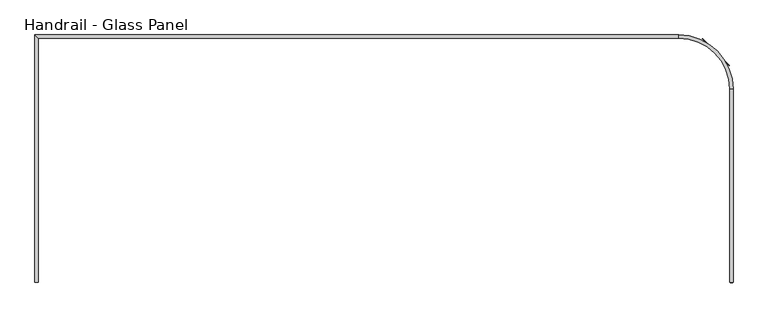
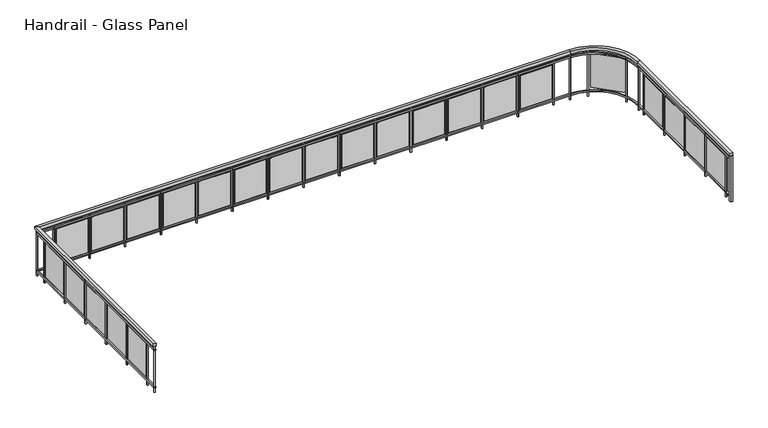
"""IFC4 building model written with IfcOpenShell, lengths in millimetres: railing geometry, Handrail - Glass Panel."""

from ifc_helpers import new_model, si_unit, point, frame, frame_2d, origin, place, context, project, spatial, polyline, circle_curve, trimmed, segment, composite_curve, outline, extrude, source, transform, mapped, element, save
from ifc_brep_helpers import plane_surface, cylinder_surface, revolved_surface, advanced_brep


def handrail_glass_panel_a0be857a(model_context):
    return source(origin(), model_context, "Body", "SolidModel", [
        advanced_brep(
        [(30113.2134101, 6897.3851347, 9014.4), (30062.4134101, 6897.3851347, 9014.4), (30062.4134101, 6897.3851347, 8963.6), (30113.2134101, 6897.3851347, 8963.6), (30113.2134101, 9747.3851347, 9014.4), (30062.4134101, 9747.3851347, 9014.4), (30062.4134101, 9747.3851347, 8963.6), (30113.2134101, 9747.3851347, 8963.6), (29312.4134101, 10497.3851347, 9014.4), (29312.4134101, 10548.1851347, 9014.4), (29312.4134101, 10497.3851347, 8963.6), (29312.4134101, 10548.1851347, 8963.6), (19806.6134101, 10548.1851347, 9014.4), (19857.4134101, 10497.3851347, 9014.4), (19857.4134101, 10497.3851347, 8963.6), (19806.6134101, 10548.1851347, 8963.6), (19806.6134101, 6897.3851347, 9014.4), (19806.6134101, 6897.3851347, 8963.6), (19857.4134101, 6897.3851347, 8963.6), (19857.4134101, 6897.3851347, 9014.4)],
        [
            (0, 1),
            (1, 2),
            (2, 3),
            (3, 0),
            (0, 4),
            (4, 5),
            (5, 1),
            (5, 6),
            (6, 2),
            (6, 7),
            (7, 3),
            (7, 4),
            (8, 5, circle_curve(frame((29312.4134101, 9747.3851347, 9014.4), z_axis=(0.0, 0.0, -1.0), x_axis=(1.0, 0.0, 0.0)), 750.0)),
            (4, 9, circle_curve(frame((29312.4134101, 9747.3851347, 9014.4), z_axis=(0.0, 0.0, 1.0), x_axis=(1.0, 0.0, 0.0)), 800.8)),
            (9, 8),
            (10, 6, circle_curve(frame((29312.4134101, 9747.3851347, 8963.6), z_axis=(0.0, 0.0, -1.0), x_axis=(1.0, 0.0, 0.0)), 750.0)),
            (8, 10),
            (11, 7, circle_curve(frame((29312.4134101, 9747.3851347, 8963.6), z_axis=(0.0, 0.0, -1.0), x_axis=(1.0, 0.0, 0.0)), 800.8)),
            (10, 11),
            (11, 9),
            (9, 12),
            (12, 13),
            (13, 8),
            (13, 14),
            (14, 10),
            (14, 15),
            (15, 11),
            (15, 12),
            (16, 17),
            (17, 18),
            (18, 19),
            (19, 16),
            (12, 16),
            (19, 13),
            (18, 14),
            (17, 15),
        ],
        [
            plane_surface(frame((30087.8134101, 6897.3851347, 9014.4), z_axis=(0.0, -1.0, 0.0), x_axis=(0.0, 0.0, 1.0))),
            plane_surface(frame((30113.2134101, 6897.3851347, 9014.4), z_axis=(0.0, 0.0, 1.0), x_axis=(0.0, 1.0, 0.0))),
            plane_surface(frame((30062.4134101, 6897.3851347, 9014.4), z_axis=(-1.0, 0.0, 0.0), x_axis=(0.0, 1.0, 0.0))),
            plane_surface(frame((30062.4134101, 6897.3851347, 8963.6), z_axis=(0.0, 0.0, -1.0), x_axis=(0.0, 1.0, 0.0))),
            plane_surface(frame((30113.2134101, 6897.3851347, 8963.6), z_axis=(1.0, 0.0, 0.0), x_axis=(0.0, 1.0, 0.0))),
            plane_surface(frame((29312.4134101, 9747.3851347, 9014.4), z_axis=(0.0, 0.0, 1.0), x_axis=(1.0, 0.0, 0.0))),
            revolved_surface(polyline([(30062.4134101, 9747.3851347, 9014.4), (30062.4134101, 9747.3851347, 8963.6)]), (29312.4134101, 9747.3851347, 9014.4), (0.0, 0.0, 1.0)),
            plane_surface(frame((29312.4134101, 9747.3851347, 8963.6), z_axis=(0.0, 0.0, -1.0), x_axis=(1.0, 0.0, 0.0))),
            cylinder_surface(frame((29312.4134101, 9747.3851347, 9014.4), z_axis=(0.0, 0.0, 1.0), x_axis=(1.0, 0.0, 0.0)), 800.8),
            plane_surface(frame((29312.4134101, 10548.1851347, 9014.4), z_axis=(0.0, 0.0, 1.0), x_axis=(-1.0, 0.0, 0.0))),
            plane_surface(frame((29312.4134101, 10497.3851347, 9014.4), z_axis=(0.0, -1.0, 0.0), x_axis=(-1.0, 0.0, 0.0))),
            plane_surface(frame((29312.4134101, 10497.3851347, 8963.6), z_axis=(0.0, 0.0, -1.0), x_axis=(-1.0, 0.0, 0.0))),
            plane_surface(frame((29312.4134101, 10548.1851347, 8963.6), z_axis=(0.0, 1.0, 0.0), x_axis=(-1.0, 0.0, 0.0))),
            plane_surface(frame((19832.0134101, 6897.3851347, 9014.4), z_axis=(0.0, -1.0, 0.0), x_axis=(0.0, 0.0, -1.0))),
            plane_surface(frame((19806.6134101, 10548.1851347, 9014.4), z_axis=(0.0, 0.0, 1.0), x_axis=(0.0, -1.0, 0.0))),
            plane_surface(frame((19857.4134101, 10497.3851347, 9014.4), z_axis=(1.0, 0.0, 0.0), x_axis=(0.0, -1.0, 0.0))),
            plane_surface(frame((19857.4134101, 10497.3851347, 8963.6), z_axis=(0.0, 0.0, -1.0), x_axis=(0.0, -1.0, 0.0))),
            plane_surface(frame((19806.6134101, 10548.1851347, 8963.6), z_axis=(-1.0, 0.0, 0.0), x_axis=(0.0, -1.0, 0.0))),
        ],
        [
            (0, [[1, 2, 3, 4]]),
            (1, [[-1, 5, 6, 7]]),
            (2, [[-2, -7, 8, 9]]),
            (3, [[-3, -9, 10, 11]]),
            (4, [[-4, -11, 12, -5]]),
            (5, [[13, -6, 14, 15]]),
            (6, [[16, -8, -13, 17]]),
            (7, [[18, -10, -16, 19]]),
            (8, [[-14, -12, -18, 20]]),
            (9, [[-15, 21, 22, 23]]),
            (10, [[-17, -23, 24, 25]]),
            (11, [[-19, -25, 26, 27]]),
            (12, [[-20, -27, 28, -21]]),
            (13, [[29, 30, 31, 32]]),
            (14, [[-22, 33, -32, 34]]),
            (15, [[-24, -34, -31, 35]]),
            (16, [[-26, -35, -30, 36]]),
            (17, [[-28, -36, -29, -33]]),
        ],
    ),
        advanced_brep(
        [(30100.5134101, 6897.3851347, 8912.8), (30075.1134101, 6897.3851347, 8912.8), (30075.1134101, 6897.3851347, 8887.4), (30100.5134101, 6897.3851347, 8887.4), (30100.5134101, 9747.3851347, 8912.8), (30075.1134101, 9747.3851347, 8912.8), (30075.1134101, 9747.3851347, 8887.4), (30100.5134101, 9747.3851347, 8887.4), (29312.4134101, 10510.0851347, 8912.8), (29312.4134101, 10535.4851347, 8912.8), (29312.4134101, 10510.0851347, 8887.4), (29312.4134101, 10535.4851347, 8887.4), (19819.3134101, 10535.4851347, 8912.8), (19844.7134101, 10510.0851347, 8912.8), (19844.7134101, 10510.0851347, 8887.4), (19819.3134101, 10535.4851347, 8887.4), (19819.3134101, 6897.3851347, 8912.8), (19819.3134101, 6897.3851347, 8887.4), (19844.7134101, 6897.3851347, 8887.4), (19844.7134101, 6897.3851347, 8912.8)],
        [
            (0, 1),
            (1, 2),
            (2, 3),
            (3, 0),
            (0, 4),
            (4, 5),
            (5, 1),
            (5, 6),
            (6, 2),
            (6, 7),
            (7, 3),
            (7, 4),
            (8, 5, circle_curve(frame((29312.4134101, 9747.3851347, 8912.8), z_axis=(0.0, 0.0, -1.0), x_axis=(1.0, 0.0, 0.0)), 762.7)),
            (4, 9, circle_curve(frame((29312.4134101, 9747.3851347, 8912.8), z_axis=(0.0, 0.0, 1.0), x_axis=(1.0, 0.0, 0.0)), 788.1)),
            (9, 8),
            (10, 6, circle_curve(frame((29312.4134101, 9747.3851347, 8887.4), z_axis=(0.0, 0.0, -1.0), x_axis=(1.0, 0.0, 0.0)), 762.7)),
            (8, 10),
            (11, 7, circle_curve(frame((29312.4134101, 9747.3851347, 8887.4), z_axis=(0.0, 0.0, -1.0), x_axis=(1.0, 0.0, 0.0)), 788.1)),
            (10, 11),
            (11, 9),
            (9, 12),
            (12, 13),
            (13, 8),
            (13, 14),
            (14, 10),
            (14, 15),
            (15, 11),
            (15, 12),
            (16, 17),
            (17, 18),
            (18, 19),
            (19, 16),
            (12, 16),
            (19, 13),
            (18, 14),
            (17, 15),
        ],
        [
            plane_surface(frame((30087.8134101, 6897.3851347, 8912.8), z_axis=(0.0, -1.0, 0.0), x_axis=(0.0, 0.0, 1.0))),
            plane_surface(frame((30100.5134101, 6897.3851347, 8912.8), z_axis=(0.0, 0.0, 1.0), x_axis=(0.0, 1.0, 0.0))),
            plane_surface(frame((30075.1134101, 6897.3851347, 8912.8), z_axis=(-1.0, 0.0, 0.0), x_axis=(0.0, 1.0, 0.0))),
            plane_surface(frame((30075.1134101, 6897.3851347, 8887.4), z_axis=(0.0, 0.0, -1.0), x_axis=(0.0, 1.0, 0.0))),
            plane_surface(frame((30100.5134101, 6897.3851347, 8887.4), z_axis=(1.0, 0.0, 0.0), x_axis=(0.0, 1.0, 0.0))),
            plane_surface(frame((29312.4134101, 9747.3851347, 8912.8), z_axis=(0.0, 0.0, 1.0), x_axis=(1.0, 0.0, 0.0))),
            revolved_surface(polyline([(30075.113410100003, 9747.3851347, 8912.8), (30075.113410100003, 9747.3851347, 8887.4)]), (29312.4134101, 9747.3851347, 8912.8), (0.0, 0.0, 1.0)),
            plane_surface(frame((29312.4134101, 9747.3851347, 8887.4), z_axis=(0.0, 0.0, -1.0), x_axis=(1.0, 0.0, 0.0))),
            cylinder_surface(frame((29312.4134101, 9747.3851347, 8912.8), z_axis=(0.0, 0.0, 1.0), x_axis=(1.0, 0.0, 0.0)), 788.1),
            plane_surface(frame((29312.4134101, 10535.4851347, 8912.8), z_axis=(0.0, 0.0, 1.0), x_axis=(-1.0, 0.0, 0.0))),
            plane_surface(frame((29312.4134101, 10510.0851347, 8912.8), z_axis=(0.0, -1.0, 0.0), x_axis=(-1.0, 0.0, 0.0))),
            plane_surface(frame((29312.4134101, 10510.0851347, 8887.4), z_axis=(0.0, 0.0, -1.0), x_axis=(-1.0, 0.0, 0.0))),
            plane_surface(frame((29312.4134101, 10535.4851347, 8887.4), z_axis=(0.0, 1.0, 0.0), x_axis=(-1.0, 0.0, 0.0))),
            plane_surface(frame((19832.0134101, 6897.3851347, 8912.8), z_axis=(0.0, -1.0, 0.0), x_axis=(0.0, 0.0, -1.0))),
            plane_surface(frame((19819.3134101, 10535.4851347, 8912.8), z_axis=(0.0, 0.0, 1.0), x_axis=(0.0, -1.0, 0.0))),
            plane_surface(frame((19844.7134101, 10510.0851347, 8912.8), z_axis=(1.0, 0.0, 0.0), x_axis=(0.0, -1.0, 0.0))),
            plane_surface(frame((19844.7134101, 10510.0851347, 8887.4), z_axis=(0.0, 0.0, -1.0), x_axis=(0.0, -1.0, 0.0))),
            plane_surface(frame((19819.3134101, 10535.4851347, 8887.4), z_axis=(-1.0, 0.0, 0.0), x_axis=(0.0, -1.0, 0.0))),
        ],
        [
            (0, [[1, 2, 3, 4]]),
            (1, [[-1, 5, 6, 7]]),
            (2, [[-2, -7, 8, 9]]),
            (3, [[-3, -9, 10, 11]]),
            (4, [[-4, -11, 12, -5]]),
            (5, [[13, -6, 14, 15]]),
            (6, [[16, -8, -13, 17]]),
            (7, [[18, -10, -16, 19]]),
            (8, [[-14, -12, -18, 20]]),
            (9, [[-15, 21, 22, 23]]),
            (10, [[-17, -23, 24, 25]]),
            (11, [[-19, -25, 26, 27]]),
            (12, [[-20, -27, 28, -21]]),
            (13, [[29, 30, 31, 32]]),
            (14, [[-22, 33, -32, 34]]),
            (15, [[-24, -34, -31, 35]]),
            (16, [[-26, -35, -30, 36]]),
            (17, [[-28, -36, -29, -33]]),
        ],
    ),
        advanced_brep(
        [(30100.5134101, 6897.3851347, 8201.6), (30075.1134101, 6897.3851347, 8201.6), (30075.1134101, 6897.3851347, 8176.2), (30100.5134101, 6897.3851347, 8176.2), (30100.5134101, 9747.3851347, 8201.6), (30075.1134101, 9747.3851347, 8201.6), (30075.1134101, 9747.3851347, 8176.2), (30100.5134101, 9747.3851347, 8176.2), (29312.4134101, 10510.0851347, 8201.6), (29312.4134101, 10535.4851347, 8201.6), (29312.4134101, 10510.0851347, 8176.2), (29312.4134101, 10535.4851347, 8176.2), (19819.3134101, 10535.4851347, 8201.6), (19844.7134101, 10510.0851347, 8201.6), (19844.7134101, 10510.0851347, 8176.2), (19819.3134101, 10535.4851347, 8176.2), (19819.3134101, 6897.3851347, 8201.6), (19819.3134101, 6897.3851347, 8176.2), (19844.7134101, 6897.3851347, 8176.2), (19844.7134101, 6897.3851347, 8201.6)],
        [
            (0, 1),
            (1, 2),
            (2, 3),
            (3, 0),
            (0, 4),
            (4, 5),
            (5, 1),
            (5, 6),
            (6, 2),
            (6, 7),
            (7, 3),
            (7, 4),
            (8, 5, circle_curve(frame((29312.4134101, 9747.3851347, 8201.6), z_axis=(0.0, 0.0, -1.0), x_axis=(1.0, 0.0, 0.0)), 762.7)),
            (4, 9, circle_curve(frame((29312.4134101, 9747.3851347, 8201.6), z_axis=(0.0, 0.0, 1.0), x_axis=(1.0, 0.0, 0.0)), 788.1)),
            (9, 8),
            (10, 6, circle_curve(frame((29312.4134101, 9747.3851347, 8176.2), z_axis=(0.0, 0.0, -1.0), x_axis=(1.0, 0.0, 0.0)), 762.7)),
            (8, 10),
            (11, 7, circle_curve(frame((29312.4134101, 9747.3851347, 8176.2), z_axis=(0.0, 0.0, -1.0), x_axis=(1.0, 0.0, 0.0)), 788.1)),
            (10, 11),
            (11, 9),
            (9, 12),
            (12, 13),
            (13, 8),
            (13, 14),
            (14, 10),
            (14, 15),
            (15, 11),
            (15, 12),
            (16, 17),
            (17, 18),
            (18, 19),
            (19, 16),
            (12, 16),
            (19, 13),
            (18, 14),
            (17, 15),
        ],
        [
            plane_surface(frame((30087.8134101, 6897.3851347, 8201.6), z_axis=(0.0, -1.0, 0.0), x_axis=(0.0, 0.0, 1.0))),
            plane_surface(frame((30100.5134101, 6897.3851347, 8201.6), z_axis=(0.0, 0.0, 1.0), x_axis=(0.0, 1.0, 0.0))),
            plane_surface(frame((30075.1134101, 6897.3851347, 8201.6), z_axis=(-1.0, 0.0, 0.0), x_axis=(0.0, 1.0, 0.0))),
            plane_surface(frame((30075.1134101, 6897.3851347, 8176.2), z_axis=(0.0, 0.0, -1.0), x_axis=(0.0, 1.0, 0.0))),
            plane_surface(frame((30100.5134101, 6897.3851347, 8176.2), z_axis=(1.0, 0.0, 0.0), x_axis=(0.0, 1.0, 0.0))),
            plane_surface(frame((29312.4134101, 9747.3851347, 8201.6), z_axis=(0.0, 0.0, 1.0), x_axis=(1.0, 0.0, 0.0))),
            revolved_surface(polyline([(30075.113410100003, 9747.3851347, 8201.6), (30075.113410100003, 9747.3851347, 8176.2)]), (29312.4134101, 9747.3851347, 8201.6), (0.0, 0.0, 1.0)),
            plane_surface(frame((29312.4134101, 9747.3851347, 8176.2), z_axis=(0.0, 0.0, -1.0), x_axis=(1.0, 0.0, 0.0))),
            cylinder_surface(frame((29312.4134101, 9747.3851347, 8201.6), z_axis=(0.0, 0.0, 1.0), x_axis=(1.0, 0.0, 0.0)), 788.1),
            plane_surface(frame((29312.4134101, 10535.4851347, 8201.6), z_axis=(0.0, 0.0, 1.0), x_axis=(-1.0, 0.0, 0.0))),
            plane_surface(frame((29312.4134101, 10510.0851347, 8201.6), z_axis=(0.0, -1.0, 0.0), x_axis=(-1.0, 0.0, 0.0))),
            plane_surface(frame((29312.4134101, 10510.0851347, 8176.2), z_axis=(0.0, 0.0, -1.0), x_axis=(-1.0, 0.0, 0.0))),
            plane_surface(frame((29312.4134101, 10535.4851347, 8176.2), z_axis=(0.0, 1.0, 0.0), x_axis=(-1.0, 0.0, 0.0))),
            plane_surface(frame((19832.0134101, 6897.3851347, 8201.6), z_axis=(0.0, -1.0, 0.0), x_axis=(0.0, 0.0, -1.0))),
            plane_surface(frame((19819.3134101, 10535.4851347, 8201.6), z_axis=(0.0, 0.0, 1.0), x_axis=(0.0, -1.0, 0.0))),
            plane_surface(frame((19844.7134101, 10510.0851347, 8201.6), z_axis=(1.0, 0.0, 0.0), x_axis=(0.0, -1.0, 0.0))),
            plane_surface(frame((19844.7134101, 10510.0851347, 8176.2), z_axis=(0.0, 0.0, -1.0), x_axis=(0.0, -1.0, 0.0))),
            plane_surface(frame((19819.3134101, 10535.4851347, 8176.2), z_axis=(-1.0, 0.0, 0.0), x_axis=(0.0, -1.0, 0.0))),
        ],
        [
            (0, [[1, 2, 3, 4]]),
            (1, [[-1, 5, 6, 7]]),
            (2, [[-2, -7, 8, 9]]),
            (3, [[-3, -9, 10, 11]]),
            (4, [[-4, -11, 12, -5]]),
            (5, [[13, -6, 14, 15]]),
            (6, [[16, -8, -13, 17]]),
            (7, [[18, -10, -16, 19]]),
            (8, [[-14, -12, -18, 20]]),
            (9, [[-15, 21, 22, 23]]),
            (10, [[-17, -23, 24, 25]]),
            (11, [[-19, -25, 26, 27]]),
            (12, [[-20, -27, 28, -21]]),
            (13, [[29, 30, 31, 32]]),
            (14, [[-22, 33, -32, 34]]),
            (15, [[-24, -34, -31, 35]]),
            (16, [[-26, -35, -30, 36]]),
            (17, [[-28, -36, -29, -33]]),
        ],
    ),
        extrude(outline(polyline([(19822.4884101, 7132.1101347), (19841.5384101, 7132.1101347), (19841.5384101, 7113.0601347), (19822.4884101, 7113.0601347), (19822.4884101, 7132.1101347)])), frame((0.0, 0.0, 8100.0), z_axis=(0.0, 0.0, 1.0), x_axis=(1.0, 0.0, 0.0)), (0.0, 0.0, 1.0), 863.6),
        extrude(outline(polyline([(19838.3634101, 7719.4851347), (19838.3634101, 7160.6851347), (19832.0134101, 7160.6851347), (19832.0134101, 7719.4851347), (19838.3634101, 7719.4851347)])), frame((0.0, 0.0, 8227.0), z_axis=(0.0, 0.0, 1.0), x_axis=(1.0, 0.0, 0.0)), (0.0, 0.0, 1.0), 635.0),
        extrude(outline(polyline([(19822.4884101, 7767.1101347), (19841.5384101, 7767.1101347), (19841.5384101, 7748.0601347), (19822.4884101, 7748.0601347), (19822.4884101, 7767.1101347)])), frame((0.0, 0.0, 8100.0), z_axis=(0.0, 0.0, 1.0), x_axis=(1.0, 0.0, 0.0)), (0.0, 0.0, 1.0), 863.6),
        extrude(outline(polyline([(19838.3634101, 8354.4851347), (19838.3634101, 7795.6851347), (19832.0134101, 7795.6851347), (19832.0134101, 8354.4851347), (19838.3634101, 8354.4851347)])), frame((0.0, 0.0, 8227.0), z_axis=(0.0, 0.0, 1.0), x_axis=(1.0, 0.0, 0.0)), (0.0, 0.0, 1.0), 635.0),
        extrude(outline(polyline([(19822.4884101, 8402.1101347), (19841.5384101, 8402.1101347), (19841.5384101, 8383.0601347), (19822.4884101, 8383.0601347), (19822.4884101, 8402.1101347)])), frame((0.0, 0.0, 8100.0), z_axis=(0.0, 0.0, 1.0), x_axis=(1.0, 0.0, 0.0)), (0.0, 0.0, 1.0), 863.6),
        extrude(outline(polyline([(19838.3634101, 8989.4851347), (19838.3634101, 8430.6851347), (19832.0134101, 8430.6851347), (19832.0134101, 8989.4851347), (19838.3634101, 8989.4851347)])), frame((0.0, 0.0, 8227.0), z_axis=(0.0, 0.0, 1.0), x_axis=(1.0, 0.0, 0.0)), (0.0, 0.0, 1.0), 635.0),
        extrude(outline(polyline([(19822.4884101, 9037.1101347), (19841.5384101, 9037.1101347), (19841.5384101, 9018.0601347), (19822.4884101, 9018.0601347), (19822.4884101, 9037.1101347)])), frame((0.0, 0.0, 8100.0), z_axis=(0.0, 0.0, 1.0), x_axis=(1.0, 0.0, 0.0)), (0.0, 0.0, 1.0), 863.6),
        extrude(outline(polyline([(19838.3634101, 9624.4851347), (19838.3634101, 9065.6851347), (19832.0134101, 9065.6851347), (19832.0134101, 9624.4851347), (19838.3634101, 9624.4851347)])), frame((0.0, 0.0, 8227.0), z_axis=(0.0, 0.0, 1.0), x_axis=(1.0, 0.0, 0.0)), (0.0, 0.0, 1.0), 635.0),
        extrude(outline(polyline([(19822.4884101, 9672.1101347), (19841.5384101, 9672.1101347), (19841.5384101, 9653.0601347), (19822.4884101, 9653.0601347), (19822.4884101, 9672.1101347)])), frame((0.0, 0.0, 8100.0), z_axis=(0.0, 0.0, 1.0), x_axis=(1.0, 0.0, 0.0)), (0.0, 0.0, 1.0), 863.6),
        extrude(outline(polyline([(19838.3634101, 10259.4851347), (19838.3634101, 9700.6851347), (19832.0134101, 9700.6851347), (19832.0134101, 10259.4851347), (19838.3634101, 10259.4851347)])), frame((0.0, 0.0, 8227.0), z_axis=(0.0, 0.0, 1.0), x_axis=(1.0, 0.0, 0.0)), (0.0, 0.0, 1.0), 635.0),
        extrude(outline(polyline([(19822.4884101, 10307.1101347), (19841.5384101, 10307.1101347), (19841.5384101, 10288.0601347), (19822.4884101, 10288.0601347), (19822.4884101, 10307.1101347)])), frame((0.0, 0.0, 8100.0), z_axis=(0.0, 0.0, 1.0), x_axis=(1.0, 0.0, 0.0)), (0.0, 0.0, 1.0), 863.6),
        extrude(outline(polyline([(20136.7384101, 10532.3101347), (20136.7384101, 10513.2601347), (20117.6884101, 10513.2601347), (20117.6884101, 10532.3101347), (20136.7384101, 10532.3101347)])), frame((0.0, 0.0, 8100.0), z_axis=(0.0, 0.0, 1.0), x_axis=(1.0, 0.0, 0.0)), (0.0, 0.0, 1.0), 863.6),
        extrude(outline(polyline([(20724.1134101, 10516.4351347), (20165.3134101, 10516.4351347), (20165.3134101, 10522.7851347), (20724.1134101, 10522.7851347), (20724.1134101, 10516.4351347)])), frame((0.0, 0.0, 8227.0), z_axis=(0.0, 0.0, 1.0), x_axis=(1.0, 0.0, 0.0)), (0.0, 0.0, 1.0), 635.0),
        extrude(outline(polyline([(20771.7384101, 10532.3101347), (20771.7384101, 10513.2601347), (20752.6884101, 10513.2601347), (20752.6884101, 10532.3101347), (20771.7384101, 10532.3101347)])), frame((0.0, 0.0, 8100.0), z_axis=(0.0, 0.0, 1.0), x_axis=(1.0, 0.0, 0.0)), (0.0, 0.0, 1.0), 863.6),
        extrude(outline(polyline([(21359.1134101, 10516.4351347), (20800.3134101, 10516.4351347), (20800.3134101, 10522.7851347), (21359.1134101, 10522.7851347), (21359.1134101, 10516.4351347)])), frame((0.0, 0.0, 8227.0), z_axis=(0.0, 0.0, 1.0), x_axis=(1.0, 0.0, 0.0)), (0.0, 0.0, 1.0), 635.0),
        extrude(outline(polyline([(21406.7384101, 10532.3101347), (21406.7384101, 10513.2601347), (21387.6884101, 10513.2601347), (21387.6884101, 10532.3101347), (21406.7384101, 10532.3101347)])), frame((0.0, 0.0, 8100.0), z_axis=(0.0, 0.0, 1.0), x_axis=(1.0, 0.0, 0.0)), (0.0, 0.0, 1.0), 863.6),
        extrude(outline(polyline([(21994.1134101, 10516.4351347), (21435.3134101, 10516.4351347), (21435.3134101, 10522.7851347), (21994.1134101, 10522.7851347), (21994.1134101, 10516.4351347)])), frame((0.0, 0.0, 8227.0), z_axis=(0.0, 0.0, 1.0), x_axis=(1.0, 0.0, 0.0)), (0.0, 0.0, 1.0), 635.0),
        extrude(outline(polyline([(22041.7384101, 10532.3101347), (22041.7384101, 10513.2601347), (22022.6884101, 10513.2601347), (22022.6884101, 10532.3101347), (22041.7384101, 10532.3101347)])), frame((0.0, 0.0, 8100.0), z_axis=(0.0, 0.0, 1.0), x_axis=(1.0, 0.0, 0.0)), (0.0, 0.0, 1.0), 863.6),
        extrude(outline(polyline([(22629.1134101, 10516.4351347), (22070.3134101, 10516.4351347), (22070.3134101, 10522.7851347), (22629.1134101, 10522.7851347), (22629.1134101, 10516.4351347)])), frame((0.0, 0.0, 8227.0), z_axis=(0.0, 0.0, 1.0), x_axis=(1.0, 0.0, 0.0)), (0.0, 0.0, 1.0), 635.0),
        extrude(outline(polyline([(22676.7384101, 10532.3101347), (22676.7384101, 10513.2601347), (22657.6884101, 10513.2601347), (22657.6884101, 10532.3101347), (22676.7384101, 10532.3101347)])), frame((0.0, 0.0, 8100.0), z_axis=(0.0, 0.0, 1.0), x_axis=(1.0, 0.0, 0.0)), (0.0, 0.0, 1.0), 863.6),
        extrude(outline(polyline([(23264.1134101, 10516.4351347), (22705.3134101, 10516.4351347), (22705.3134101, 10522.7851347), (23264.1134101, 10522.7851347), (23264.1134101, 10516.4351347)])), frame((0.0, 0.0, 8227.0), z_axis=(0.0, 0.0, 1.0), x_axis=(1.0, 0.0, 0.0)), (0.0, 0.0, 1.0), 635.0),
        extrude(outline(polyline([(23311.7384101, 10532.3101347), (23311.7384101, 10513.2601347), (23292.6884101, 10513.2601347), (23292.6884101, 10532.3101347), (23311.7384101, 10532.3101347)])), frame((0.0, 0.0, 8100.0), z_axis=(0.0, 0.0, 1.0), x_axis=(1.0, 0.0, 0.0)), (0.0, 0.0, 1.0), 863.6),
        extrude(outline(polyline([(23899.1134101, 10516.4351347), (23340.3134101, 10516.4351347), (23340.3134101, 10522.7851347), (23899.1134101, 10522.7851347), (23899.1134101, 10516.4351347)])), frame((0.0, 0.0, 8227.0), z_axis=(0.0, 0.0, 1.0), x_axis=(1.0, 0.0, 0.0)), (0.0, 0.0, 1.0), 635.0),
        extrude(outline(polyline([(23946.7384101, 10532.3101347), (23946.7384101, 10513.2601347), (23927.6884101, 10513.2601347), (23927.6884101, 10532.3101347), (23946.7384101, 10532.3101347)])), frame((0.0, 0.0, 8100.0), z_axis=(0.0, 0.0, 1.0), x_axis=(1.0, 0.0, 0.0)), (0.0, 0.0, 1.0), 863.6),
        extrude(outline(polyline([(24534.1134101, 10516.4351347), (23975.3134101, 10516.4351347), (23975.3134101, 10522.7851347), (24534.1134101, 10522.7851347), (24534.1134101, 10516.4351347)])), frame((0.0, 0.0, 8227.0), z_axis=(0.0, 0.0, 1.0), x_axis=(1.0, 0.0, 0.0)), (0.0, 0.0, 1.0), 635.0),
        extrude(outline(polyline([(24581.7384101, 10532.3101347), (24581.7384101, 10513.2601347), (24562.6884101, 10513.2601347), (24562.6884101, 10532.3101347), (24581.7384101, 10532.3101347)])), frame((0.0, 0.0, 8100.0), z_axis=(0.0, 0.0, 1.0), x_axis=(1.0, 0.0, 0.0)), (0.0, 0.0, 1.0), 863.6),
        extrude(outline(polyline([(25169.1134101, 10516.4351347), (24610.3134101, 10516.4351347), (24610.3134101, 10522.7851347), (25169.1134101, 10522.7851347), (25169.1134101, 10516.4351347)])), frame((0.0, 0.0, 8227.0), z_axis=(0.0, 0.0, 1.0), x_axis=(1.0, 0.0, 0.0)), (0.0, 0.0, 1.0), 635.0),
        extrude(outline(polyline([(25216.7384101, 10532.3101347), (25216.7384101, 10513.2601347), (25197.6884101, 10513.2601347), (25197.6884101, 10532.3101347), (25216.7384101, 10532.3101347)])), frame((0.0, 0.0, 8100.0), z_axis=(0.0, 0.0, 1.0), x_axis=(1.0, 0.0, 0.0)), (0.0, 0.0, 1.0), 863.6),
        extrude(outline(polyline([(25804.1134101, 10516.4351347), (25245.3134101, 10516.4351347), (25245.3134101, 10522.7851347), (25804.1134101, 10522.7851347), (25804.1134101, 10516.4351347)])), frame((0.0, 0.0, 8227.0), z_axis=(0.0, 0.0, 1.0), x_axis=(1.0, 0.0, 0.0)), (0.0, 0.0, 1.0), 635.0),
        extrude(outline(polyline([(25851.7384101, 10532.3101347), (25851.7384101, 10513.2601347), (25832.6884101, 10513.2601347), (25832.6884101, 10532.3101347), (25851.7384101, 10532.3101347)])), frame((0.0, 0.0, 8100.0), z_axis=(0.0, 0.0, 1.0), x_axis=(1.0, 0.0, 0.0)), (0.0, 0.0, 1.0), 863.6),
        extrude(outline(polyline([(26439.1134101, 10516.4351347), (25880.3134101, 10516.4351347), (25880.3134101, 10522.7851347), (26439.1134101, 10522.7851347), (26439.1134101, 10516.4351347)])), frame((0.0, 0.0, 8227.0), z_axis=(0.0, 0.0, 1.0), x_axis=(1.0, 0.0, 0.0)), (0.0, 0.0, 1.0), 635.0),
        extrude(outline(polyline([(26486.7384101, 10532.3101347), (26486.7384101, 10513.2601347), (26467.6884101, 10513.2601347), (26467.6884101, 10532.3101347), (26486.7384101, 10532.3101347)])), frame((0.0, 0.0, 8100.0), z_axis=(0.0, 0.0, 1.0), x_axis=(1.0, 0.0, 0.0)), (0.0, 0.0, 1.0), 863.6),
        extrude(outline(polyline([(27074.1134101, 10516.4351347), (26515.3134101, 10516.4351347), (26515.3134101, 10522.7851347), (27074.1134101, 10522.7851347), (27074.1134101, 10516.4351347)])), frame((0.0, 0.0, 8227.0), z_axis=(0.0, 0.0, 1.0), x_axis=(1.0, 0.0, 0.0)), (0.0, 0.0, 1.0), 635.0),
        extrude(outline(polyline([(27121.7384101, 10532.3101347), (27121.7384101, 10513.2601347), (27102.6884101, 10513.2601347), (27102.6884101, 10532.3101347), (27121.7384101, 10532.3101347)])), frame((0.0, 0.0, 8100.0), z_axis=(0.0, 0.0, 1.0), x_axis=(1.0, 0.0, 0.0)), (0.0, 0.0, 1.0), 863.6),
        extrude(outline(polyline([(27709.1134101, 10516.4351347), (27150.3134101, 10516.4351347), (27150.3134101, 10522.7851347), (27709.1134101, 10522.7851347), (27709.1134101, 10516.4351347)])), frame((0.0, 0.0, 8227.0), z_axis=(0.0, 0.0, 1.0), x_axis=(1.0, 0.0, 0.0)), (0.0, 0.0, 1.0), 635.0),
        extrude(outline(polyline([(27756.7384101, 10532.3101347), (27756.7384101, 10513.2601347), (27737.6884101, 10513.2601347), (27737.6884101, 10532.3101347), (27756.7384101, 10532.3101347)])), frame((0.0, 0.0, 8100.0), z_axis=(0.0, 0.0, 1.0), x_axis=(1.0, 0.0, 0.0)), (0.0, 0.0, 1.0), 863.6),
        extrude(outline(polyline([(28344.1134101, 10516.4351347), (27785.3134101, 10516.4351347), (27785.3134101, 10522.7851347), (28344.1134101, 10522.7851347), (28344.1134101, 10516.4351347)])), frame((0.0, 0.0, 8227.0), z_axis=(0.0, 0.0, 1.0), x_axis=(1.0, 0.0, 0.0)), (0.0, 0.0, 1.0), 635.0),
        extrude(outline(polyline([(28391.7384101, 10532.3101347), (28391.7384101, 10513.2601347), (28372.6884101, 10513.2601347), (28372.6884101, 10532.3101347), (28391.7384101, 10532.3101347)])), frame((0.0, 0.0, 8100.0), z_axis=(0.0, 0.0, 1.0), x_axis=(1.0, 0.0, 0.0)), (0.0, 0.0, 1.0), 863.6),
        extrude(outline(polyline([(28979.1134101, 10516.4351347), (28420.3134101, 10516.4351347), (28420.3134101, 10522.7851347), (28979.1134101, 10522.7851347), (28979.1134101, 10516.4351347)])), frame((0.0, 0.0, 8227.0), z_axis=(0.0, 0.0, 1.0), x_axis=(1.0, 0.0, 0.0)), (0.0, 0.0, 1.0), 635.0),
        extrude(outline(polyline([(29026.7384101, 10532.3101347), (29026.7384101, 10513.2601347), (29007.6884101, 10513.2601347), (29007.6884101, 10532.3101347), (29026.7384101, 10532.3101347)])), frame((0.0, 0.0, 8100.0), z_axis=(0.0, 0.0, 1.0), x_axis=(1.0, 0.0, 0.0)), (0.0, 0.0, 1.0), 863.6),
        extrude(outline(polyline([(29609.4503519, 10473.9985371), (29602.456341, 10456.2788782), (29584.7366821, 10463.2728891), (29591.7306929, 10480.992548), (29609.4503519, 10473.9985371)])), frame((0.0, 0.0, 8100.0), z_axis=(0.0, 0.0, 1.0), x_axis=(1.0, 0.0, 0.0)), (0.0, 0.0, 1.0), 863.6),
        extrude(outline(polyline([(30053.7795148, 10093.6199701), (29658.6482455, 10488.7512395), (29663.1383736, 10493.2413675), (30058.2696429, 10098.1100982), (30053.7795148, 10093.6199701)])), frame((0.0, 0.0, 8227.0), z_axis=(0.0, 0.0, 1.0), x_axis=(1.0, 0.0, 0.0)), (0.0, 0.0, 1.0), 635.0),
        extrude(outline(polyline([(30046.0208234, 10026.7024176), (30028.3011644, 10019.7084067), (30021.3071536, 10037.4280656), (30039.0268125, 10044.4220765), (30046.0208234, 10026.7024176)])), frame((0.0, 0.0, 8100.0), z_axis=(0.0, 0.0, 1.0), x_axis=(1.0, 0.0, 0.0)), (0.0, 0.0, 1.0), 863.6),
        extrude(outline(polyline([(30097.3384101, 9582.8601347), (30078.2884101, 9582.8601347), (30078.2884101, 9601.9101347), (30097.3384101, 9601.9101347), (30097.3384101, 9582.8601347)])), frame((0.0, 0.0, 8100.0), z_axis=(0.0, 0.0, 1.0), x_axis=(1.0, 0.0, 0.0)), (0.0, 0.0, 1.0), 863.6),
        extrude(outline(polyline([(30081.4634101, 8995.4851347), (30081.4634101, 9554.2851347), (30087.8134101, 9554.2851347), (30087.8134101, 8995.4851347), (30081.4634101, 8995.4851347)])), frame((0.0, 0.0, 8227.0), z_axis=(0.0, 0.0, 1.0), x_axis=(1.0, 0.0, 0.0)), (0.0, 0.0, 1.0), 635.0),
        extrude(outline(polyline([(30097.3384101, 8947.8601347), (30078.2884101, 8947.8601347), (30078.2884101, 8966.9101347), (30097.3384101, 8966.9101347), (30097.3384101, 8947.8601347)])), frame((0.0, 0.0, 8100.0), z_axis=(0.0, 0.0, 1.0), x_axis=(1.0, 0.0, 0.0)), (0.0, 0.0, 1.0), 863.6),
        extrude(outline(polyline([(30081.4634101, 8360.4851347), (30081.4634101, 8919.2851347), (30087.8134101, 8919.2851347), (30087.8134101, 8360.4851347), (30081.4634101, 8360.4851347)])), frame((0.0, 0.0, 8227.0), z_axis=(0.0, 0.0, 1.0), x_axis=(1.0, 0.0, 0.0)), (0.0, 0.0, 1.0), 635.0),
        extrude(outline(polyline([(30097.3384101, 8312.8601347), (30078.2884101, 8312.8601347), (30078.2884101, 8331.9101347), (30097.3384101, 8331.9101347), (30097.3384101, 8312.8601347)])), frame((0.0, 0.0, 8100.0), z_axis=(0.0, 0.0, 1.0), x_axis=(1.0, 0.0, 0.0)), (0.0, 0.0, 1.0), 863.6),
        extrude(outline(polyline([(30081.4634101, 7725.4851347), (30081.4634101, 8284.2851347), (30087.8134101, 8284.2851347), (30087.8134101, 7725.4851347), (30081.4634101, 7725.4851347)])), frame((0.0, 0.0, 8227.0), z_axis=(0.0, 0.0, 1.0), x_axis=(1.0, 0.0, 0.0)), (0.0, 0.0, 1.0), 635.0),
        extrude(outline(polyline([(30097.3384101, 7677.8601347), (30078.2884101, 7677.8601347), (30078.2884101, 7696.9101347), (30097.3384101, 7696.9101347), (30097.3384101, 7677.8601347)])), frame((0.0, 0.0, 8100.0), z_axis=(0.0, 0.0, 1.0), x_axis=(1.0, 0.0, 0.0)), (0.0, 0.0, 1.0), 863.6),
        extrude(outline(polyline([(30081.4634101, 7090.4851347), (30081.4634101, 7649.2851347), (30087.8134101, 7649.2851347), (30087.8134101, 7090.4851347), (30081.4634101, 7090.4851347)])), frame((0.0, 0.0, 8227.0), z_axis=(0.0, 0.0, 1.0), x_axis=(1.0, 0.0, 0.0)), (0.0, 0.0, 1.0), 635.0),
        extrude(outline(polyline([(30097.3384101, 7042.8601347), (30078.2884101, 7042.8601347), (30078.2884101, 7061.9101347), (30097.3384101, 7061.9101347), (30097.3384101, 7042.8601347)])), frame((0.0, 0.0, 8100.0), z_axis=(0.0, 0.0, 1.0), x_axis=(1.0, 0.0, 0.0)), (0.0, 0.0, 1.0), 863.6),
        extrude(outline(composite_curve([segment(trimmed(circle_curve(frame_2d((19832.0134101, 10522.7851347)), 12.7), [point((19832.0134101, 10510.0851347))], [point((19832.0134101, 10535.4851347))], False, "CARTESIAN"), True, "CONTINUOUS"), segment(trimmed(circle_curve(frame_2d((19832.0134101, 10522.7851347)), 12.7), [point((19832.0134101, 10535.4851347))], [point((19832.0134101, 10510.0851347))], False, "CARTESIAN"), True, "CONTINUOUS")], self_intersect=False)), frame((0.0, 0.0, 8100.0), z_axis=(0.0, 0.0, 1.0), x_axis=(1.0, 0.0, 0.0)), (0.0, 0.0, 1.0), 863.6),
        extrude(outline(composite_curve([segment(trimmed(circle_curve(frame_2d((29312.4134101, 10522.7851347)), 12.7), [point((29312.4134101, 10510.0851347))], [point((29312.4134101, 10535.4851347))], False, "CARTESIAN"), True, "CONTINUOUS"), segment(trimmed(circle_curve(frame_2d((29312.4134101, 10522.7851347)), 12.7), [point((29312.4134101, 10535.4851347))], [point((29312.4134101, 10510.0851347))], False, "CARTESIAN"), True, "CONTINUOUS")], self_intersect=False)), frame((0.0, 0.0, 8100.0), z_axis=(0.0, 0.0, 1.0), x_axis=(1.0, 0.0, 0.0)), (0.0, 0.0, 1.0), 863.6),
        extrude(outline(composite_curve([segment(trimmed(circle_curve(frame_2d((30087.8134101, 9747.3851347)), 12.7), [point((30075.1134101, 9747.3851347))], [point((30100.5134101, 9747.3851347))], False, "CARTESIAN"), True, "CONTINUOUS"), segment(trimmed(circle_curve(frame_2d((30087.8134101, 9747.3851347)), 12.7), [point((30100.5134101, 9747.3851347))], [point((30075.1134101, 9747.3851347))], False, "CARTESIAN"), True, "CONTINUOUS")], self_intersect=False)), frame((0.0, 0.0, 8100.0), z_axis=(0.0, 0.0, 1.0), x_axis=(1.0, 0.0, 0.0)), (0.0, 0.0, 1.0), 863.6),
        extrude(outline(composite_curve([segment(trimmed(circle_curve(frame_2d((19832.0134101, 6906.9101347)), 12.7), [point((19844.7134101, 6906.9101347))], [point((19819.3134101, 6906.9101347))], False, "CARTESIAN"), True, "CONTINUOUS"), segment(trimmed(circle_curve(frame_2d((19832.0134101, 6906.9101347)), 12.7), [point((19819.3134101, 6906.9101347))], [point((19844.7134101, 6906.9101347))], False, "CARTESIAN"), True, "CONTINUOUS")], self_intersect=False)), frame((0.0, 0.0, 8100.0), z_axis=(0.0, 0.0, 1.0), x_axis=(1.0, 0.0, 0.0)), (0.0, 0.0, 1.0), 863.6),
        extrude(outline(polyline([(30106.8634101, 6887.8601347), (30068.7634101, 6887.8601347), (30068.7634101, 6925.9601347), (30106.8634101, 6925.9601347), (30106.8634101, 6887.8601347)])), frame((0.0, 0.0, 8100.0), z_axis=(0.0, 0.0, 1.0), x_axis=(1.0, 0.0, 0.0)), (0.0, 0.0, 1.0), 863.6),
    ])


if __name__ == "__main__":
    model = new_model("IFC4")
    model_context = context("Model", 3, world=origin())
    ifc_project = project(units=[si_unit("LENGTHUNIT", "METRE", prefix="MILLI")], contexts=[model_context])
    site = spatial("IfcSite", under=ifc_project)
    building = spatial("IfcBuilding", under=site)
    placement = place(None, origin())
    handrail_glass_panel_shape = handrail_glass_panel_a0be857a(model_context)
    element("IfcRailing", 1, ObjectType="Handrail - Glass Panel", at=placement, inside=building, context=model_context, shape_type="MappedRepresentation", body=[
        mapped(handrail_glass_panel_shape, transform((0.0, 0.0, 0.0), x_axis=(1.0, 0.0, 0.0), y_axis=(0.0, 1.0, 0.0), z_axis=(0.0, 0.0, 1.0))),
    ])
    save(model, "model.ifc")
